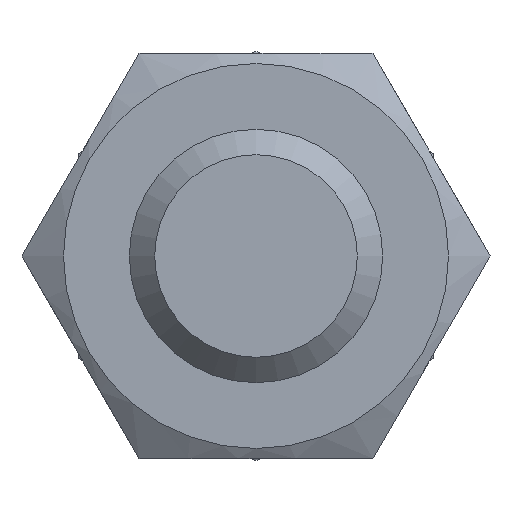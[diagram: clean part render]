
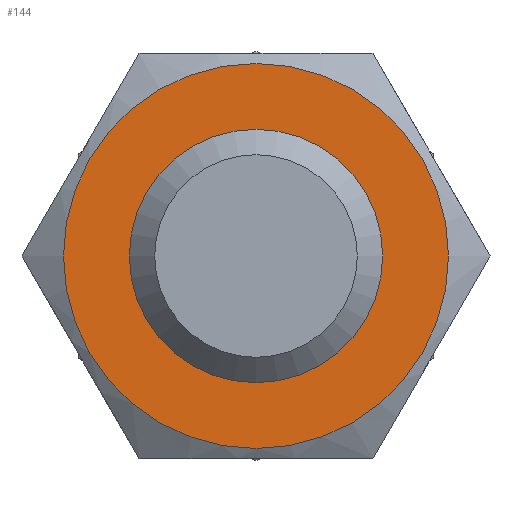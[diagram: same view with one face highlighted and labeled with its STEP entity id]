
A CAD part, left-side view. The second image highlights one B-rep face of the part: STEP entity #144.
In plain terms, the highlighted planar face has unit normal (-1, 0, 0) as drawn and (0, 0, 1) by its records, which use the part's own axes.
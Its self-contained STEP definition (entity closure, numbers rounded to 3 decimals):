
#144=ADVANCED_FACE('',(#404,#406),#408,.T.);
#404=FACE_BOUND('',#405,.T.);
#405=EDGE_LOOP('',(#551));
#406=FACE_BOUND('',#407,.T.);
#407=EDGE_LOOP('',(#552));
#408=PLANE('',#409);
#409=AXIS2_PLACEMENT_3D('',#410,#411,#412);
#410=CARTESIAN_POINT('',(0.,0.,8.4));
#411=DIRECTION('',(0.,0.,1.));
#412=DIRECTION('',(1.,0.,0.));
#551=ORIENTED_EDGE('',*,*,#618,.T.);
#552=ORIENTED_EDGE('',*,*,#619,.T.);
#618=EDGE_CURVE('',#724,#724,#725,.F.);
#619=EDGE_CURVE('',#726,#726,#727,.F.);
#724=VERTEX_POINT('',#1781);
#725=CIRCLE('',#1782,7.6);
#726=VERTEX_POINT('',#1786);
#727=CIRCLE('',#1787,5.);
#1781=CARTESIAN_POINT('',(0.,7.6,8.4));
#1782=AXIS2_PLACEMENT_3D('',#1783,#1784,#1785);
#1783=CARTESIAN_POINT('',(0.,0.,8.4));
#1784=DIRECTION('',(0.,0.,-1.));
#1785=DIRECTION('',(0.,1.,0.));
#1786=CARTESIAN_POINT('',(5.,0.,8.4));
#1787=AXIS2_PLACEMENT_3D('',#1788,#1789,#1790);
#1788=CARTESIAN_POINT('',(0.,0.,8.4));
#1789=DIRECTION('',(0.,0.,1.));
#1790=DIRECTION('',(1.,0.,0.));
